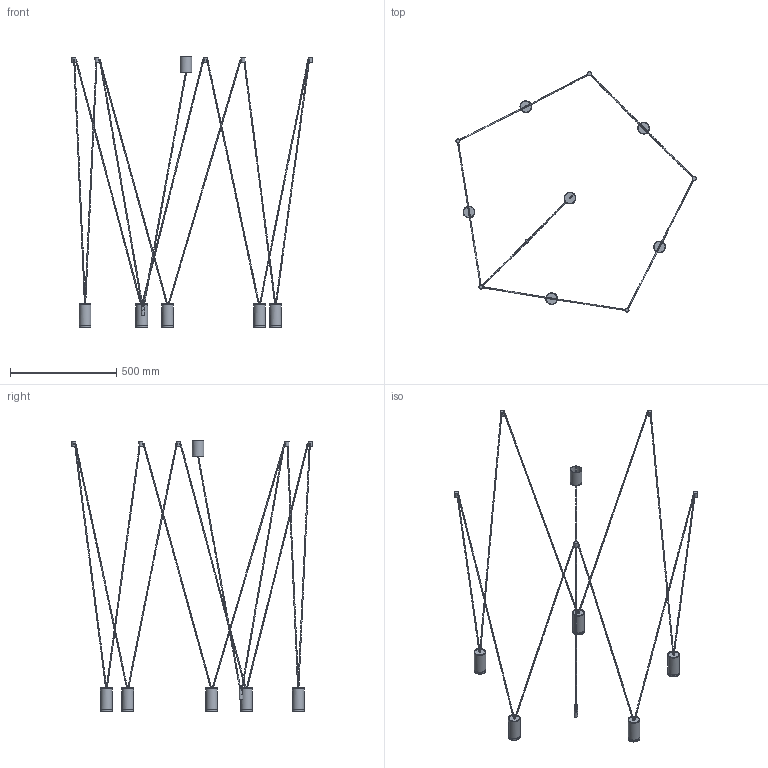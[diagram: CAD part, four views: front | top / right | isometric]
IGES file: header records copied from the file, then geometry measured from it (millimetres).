
Start section: SolidWorks IGES file using NURBS representation for surfaces
Global section: file name: Z:\Modele 3D_WWW\_KOLEKCJE_WWW\MORE-EYE\MORE-EYE-7826-7825-7608\MORE-EYE-7826-7825-7608-CIRCLE.IGS; native system: SolidWorks 2021; preprocessor: SolidWorks 2021; author: gabriela.tworek; date: 211119.125023; units: millimetre
Bounding box: 1133.05 x 1133.11 x 1275.88 mm (x, y, z)
Surface area: 504704.9 mm2 (no closed solid volume)
Topology: 0 solids, 0 shells, 167 faces, 746 edges, 663 vertices
Faces by surface type: bspline 167
